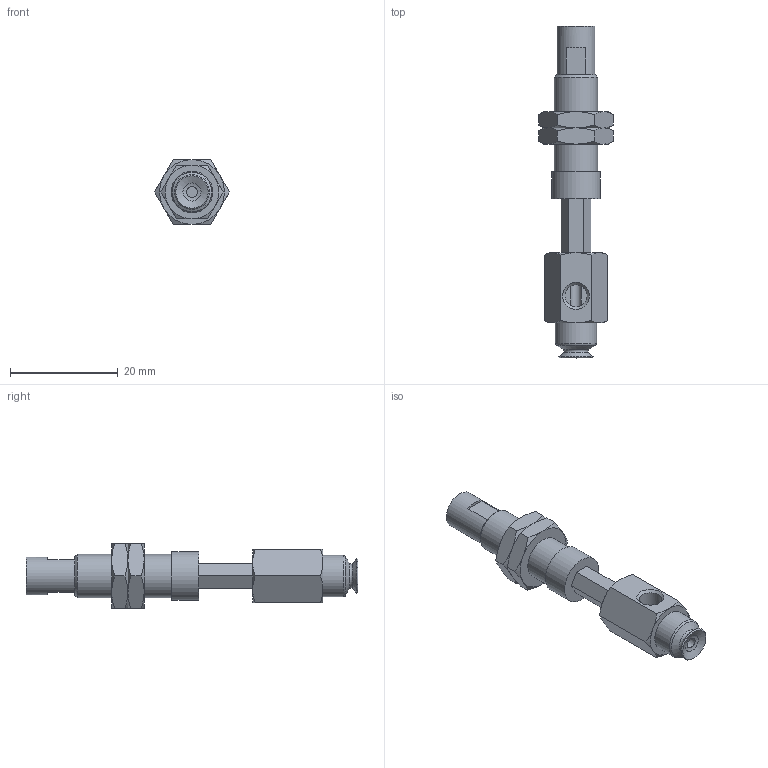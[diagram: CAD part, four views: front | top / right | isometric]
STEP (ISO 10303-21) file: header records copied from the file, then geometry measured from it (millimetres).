
FILE_DESCRIPTION(('STEP AP203'),'1');
FILE_NAME('.stp','2025-04-10T02:53:58',(' '),(' '),'Spatial InterOp 3D',' ',' ');
FILE_SCHEMA(('CONFIG_CONTROL_DESIGN'));
Length unit declared in the file: millimetre
Products named in the file (6): BNABPFYH-6A-10-※; CONNECTOR-H-6A-10; Nut-6A-10-h; NAPFTH-6A-10-FBODY; NAPFTH-6A-10-MBODY; BPFG-6A-※
Assembly tree (6 placements, depth 2):
  BNABPFYH-6A-10-※
    CONNECTOR-H-6A-10
    Nut-6A-10-h  x2
    NAPFTH-6A-10-FBODY
    NAPFTH-6A-10-MBODY
    BPFG-6A-※
Bounding box: 13.86 x 61.5 x 12 mm (x, y, z)
Volume: 3365.7 mm3; surface area: 4087.5 mm2
Topology: 6 solids, 6 shells, 138 faces, 299 edges, 181 vertices
Faces by surface type: plane 62, cone 51, cylinder 15, torus 9, bspline 1
Full cylindrical faces by diameter (mm): 2 x2, 4 x2, 4.134 x2, 5 x1, 6 x2, 7 x1, 7.188 x2, 7.7 x1, 8 x1, 9 x1
Entity records: 3447 total; most frequent: CARTESIAN_POINT 851, DIRECTION 474, ORIENTED_EDGE 416, EDGE_CURVE 208, AXIS2_PLACEMENT_3D 199, EDGE_LOOP 168, VERTEX_POINT 146, FACE_OUTER_BOUND 139
